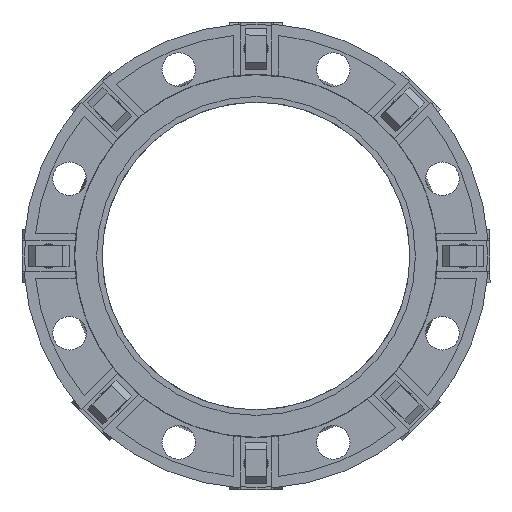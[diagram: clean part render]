
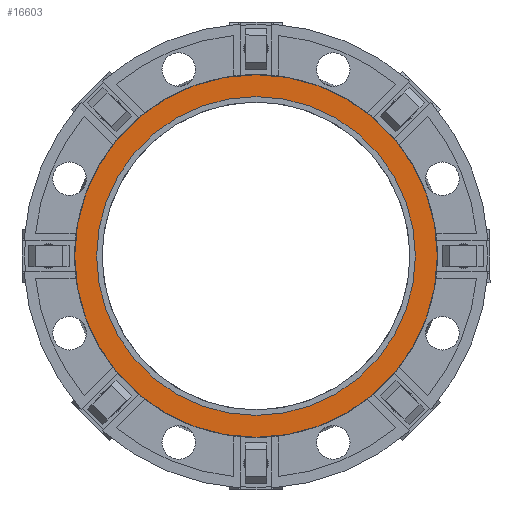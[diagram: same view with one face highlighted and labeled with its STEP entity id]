
A CAD part, front view. The second image highlights one B-rep face of the part: STEP entity #16603.
In plain terms, the highlighted planar face has unit normal (0, -1, 0).
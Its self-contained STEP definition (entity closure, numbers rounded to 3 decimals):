
#299 = CIRCLE ( 'NONE', #19974, 132.5 ) ;
#585 = CARTESIAN_POINT ( 'NONE',  ( 0., -3., 0. ) ) ;
#702 = ORIENTED_EDGE ( 'NONE', *, *, #22409, .T. ) ;
#1287 = ORIENTED_EDGE ( 'NONE', *, *, #5009, .T. ) ;
#2476 = DIRECTION ( 'NONE',  ( 0., 0., 1. ) ) ;
#3140 = DIRECTION ( 'NONE',  ( 0., 1., 0. ) ) ;
#3392 = DIRECTION ( 'NONE',  ( 0., 1., 0. ) ) ;
#3779 = FACE_OUTER_BOUND ( 'NONE', #20429, .T. ) ;
#4184 = AXIS2_PLACEMENT_3D ( 'NONE', #11000, #17980, #5553 ) ;
#4722 = VERTEX_POINT ( 'NONE', #18633 ) ;
#5009 = EDGE_CURVE ( 'Defeatured_0_460+Defeatured_0_541+Defeatured_0_541+Defeatured_0_541', #8050, #19743, #8089, .T. ) ;
#5553 = DIRECTION ( 'NONE',  ( 0., 0., 1. ) ) ;
#6020 = CARTESIAN_POINT ( 'NONE',  ( 0., -3., 0. ) ) ;
#7810 = DIRECTION ( 'NONE',  ( 0., 1., 0. ) ) ;
#8050 = VERTEX_POINT ( 'NONE', #20642 ) ;
#8089 = CIRCLE ( 'NONE', #21304, 116.5 ) ;
#10382 = EDGE_CURVE ( 'Defeatured_0_461+Defeatured_0_460+Defeatured_0_460+Defeatured_0_460', #4722, #21768, #16180, .T. ) ;
#11000 = CARTESIAN_POINT ( 'NONE',  ( 0., -3., 0. ) ) ;
#11277 = AXIS2_PLACEMENT_3D ( 'NONE', #17954, #3392, #17606 ) ;
#13630 = ORIENTED_EDGE ( 'NONE', *, *, #14216, .F. ) ;
#13824 = CARTESIAN_POINT ( 'NONE',  ( 0., -3., -132.5 ) ) ;
#14216 = EDGE_CURVE ( 'Defeatured_0_461+Defeatured_0_460+Defeatured_0_460+Defeatured_0_460', #21768, #4722, #299, .T. ) ;
#14777 = EDGE_LOOP ( 'NONE', ( #702, #1287 ) ) ;
#14790 = FACE_BOUND ( 'NONE', #14777, .T. ) ;
#15036 = DIRECTION ( 'NONE',  ( 0., 0., 1. ) ) ;
#16180 = CIRCLE ( 'NONE', #11277, 132.5 ) ;
#16603 = ADVANCED_FACE ( 'Defeatured_0_460', ( #14790, #3779 ), #23406, .F. ) ;
#17584 = DIRECTION ( 'NONE',  ( 0., 0., 1. ) ) ;
#17606 = DIRECTION ( 'NONE',  ( 0., 0., 1. ) ) ;
#17954 = CARTESIAN_POINT ( 'NONE',  ( 0., -3., 0. ) ) ;
#17980 = DIRECTION ( 'NONE',  ( 0., 1., 0. ) ) ;
#18633 = CARTESIAN_POINT ( 'NONE',  ( 0., -3., 132.5 ) ) ;
#19237 = CARTESIAN_POINT ( 'NONE',  ( 0., -3., -116.5 ) ) ;
#19350 = CARTESIAN_POINT ( 'NONE',  ( 0., -3., 0. ) ) ;
#19743 = VERTEX_POINT ( 'NONE', #19237 ) ;
#19974 = AXIS2_PLACEMENT_3D ( 'NONE', #6020, #20344, #2476 ) ;
#20344 = DIRECTION ( 'NONE',  ( 0., 1., 0. ) ) ;
#20429 = EDGE_LOOP ( 'NONE', ( #13630, #21302 ) ) ;
#20642 = CARTESIAN_POINT ( 'NONE',  ( 0., -3., 116.5 ) ) ;
#21302 = ORIENTED_EDGE ( 'NONE', *, *, #10382, .F. ) ;
#21304 = AXIS2_PLACEMENT_3D ( 'NONE', #585, #7810, #15036 ) ;
#21338 = AXIS2_PLACEMENT_3D ( 'NONE', #19350, #3140, #17584 ) ;
#21721 = CIRCLE ( 'NONE', #21338, 116.5 ) ;
#21768 = VERTEX_POINT ( 'NONE', #13824 ) ;
#22409 = EDGE_CURVE ( 'Defeatured_0_460+Defeatured_0_541+Defeatured_0_541+Defeatured_0_541', #19743, #8050, #21721, .T. ) ;
#23406 = PLANE ( 'NONE',  #4184 ) ;
